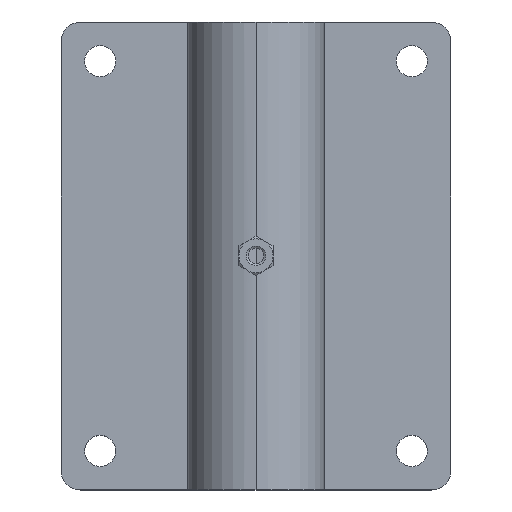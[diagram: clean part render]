
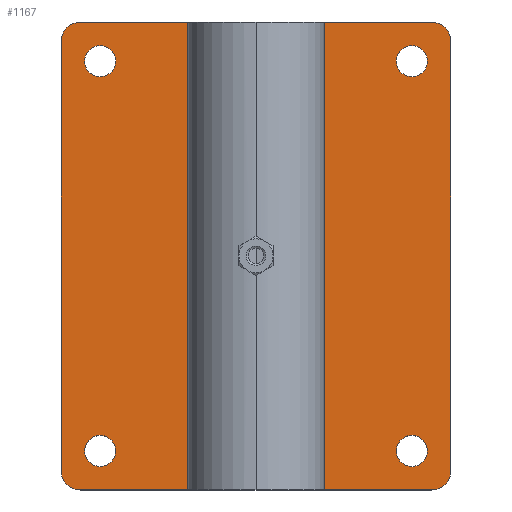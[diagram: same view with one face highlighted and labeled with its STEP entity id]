
A CAD part, top view. The second image highlights one B-rep face of the part: STEP entity #1167.
In plain terms, the highlighted planar face has unit normal (0, 0, 1).
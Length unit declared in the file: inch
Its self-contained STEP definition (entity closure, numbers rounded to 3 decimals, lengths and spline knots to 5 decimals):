
#17 = ORIENTED_EDGE ( 'NONE', *, *, #1988, .T. ) ;
#40 = EDGE_LOOP ( 'NONE', ( #1994, #334 ) ) ;
#47 = VERTEX_POINT ( 'NONE', #409 ) ;
#52 = VERTEX_POINT ( 'NONE', #1160 ) ;
#59 = AXIS2_PLACEMENT_3D ( 'NONE', #237, #1287, #711 ) ;
#92 = VECTOR ( 'NONE', #1031, 39.37008 ) ;
#105 = DIRECTION ( 'NONE',  ( -1., 0., 0. ) ) ;
#139 = EDGE_CURVE ( 'NONE', #550, #1576, #1973, .T. ) ;
#147 = DIRECTION ( 'NONE',  ( 0., 0., 1. ) ) ;
#160 = VERTEX_POINT ( 'NONE', #1886 ) ;
#170 = DIRECTION ( 'NONE',  ( -1., 0., 0. ) ) ;
#176 = ORIENTED_EDGE ( 'NONE', *, *, #1306, .T. ) ;
#219 = ORIENTED_EDGE ( 'NONE', *, *, #1342, .F. ) ;
#231 = EDGE_CURVE ( 'NONE', #742, #1393, #286, .T. ) ;
#237 = CARTESIAN_POINT ( 'NONE',  ( -2., -2.5, 0.1875 ) ) ;
#238 = DIRECTION ( 'NONE',  ( 0., 0., 1. ) ) ;
#253 = ORIENTED_EDGE ( 'NONE', *, *, #1466, .T. ) ;
#254 = DIRECTION ( 'NONE',  ( 0., 0., 1. ) ) ;
#264 = DIRECTION ( 'NONE',  ( 0., 0., 1. ) ) ;
#286 = CIRCLE ( 'NONE', #59, 0.2 ) ;
#287 = AXIS2_PLACEMENT_3D ( 'NONE', #1793, #264, #1179 ) ;
#293 = VERTEX_POINT ( 'NONE', #633 ) ;
#295 = CARTESIAN_POINT ( 'NONE',  ( 1.8, -2.5, 0.1875 ) ) ;
#312 = EDGE_CURVE ( 'NONE', #476, #415, #1477, .T. ) ;
#323 = AXIS2_PLACEMENT_3D ( 'NONE', #770, #1738, #1851 ) ;
#334 = ORIENTED_EDGE ( 'NONE', *, *, #231, .F. ) ;
#338 = EDGE_CURVE ( 'NONE', #415, #476, #830, .T. ) ;
#371 = DIRECTION ( 'NONE',  ( 0., 0., 1. ) ) ;
#382 = AXIS2_PLACEMENT_3D ( 'NONE', #1356, #565, #1041 ) ;
#383 = CARTESIAN_POINT ( 'NONE',  ( -2.5, -2.75, 0.1875 ) ) ;
#388 = CIRCLE ( 'NONE', #1553, 0.2 ) ;
#389 = AXIS2_PLACEMENT_3D ( 'NONE', #1741, #1752, #105 ) ;
#397 = CARTESIAN_POINT ( 'NONE',  ( -2.25, -3., 0.1875 ) ) ;
#405 = CARTESIAN_POINT ( 'NONE',  ( 2., -2.5, 0.1875 ) ) ;
#409 = CARTESIAN_POINT ( 'NONE',  ( 1.8, 2.5, 0.1875 ) ) ;
#412 = VERTEX_POINT ( 'NONE', #1241 ) ;
#415 = VERTEX_POINT ( 'NONE', #1094 ) ;
#444 = DIRECTION ( 'NONE',  ( 0., 0., 1. ) ) ;
#448 = FACE_OUTER_BOUND ( 'NONE', #893, .T. ) ;
#454 = VECTOR ( 'NONE', #1533, 39.37008 ) ;
#467 = CARTESIAN_POINT ( 'NONE',  ( 2.5, -2.75, 0.1875 ) ) ;
#475 = DIRECTION ( 'NONE',  ( 1., 0., 0. ) ) ;
#476 = VERTEX_POINT ( 'NONE', #1630 ) ;
#487 = CARTESIAN_POINT ( 'NONE',  ( 2.2, -2.5, 0.1875 ) ) ;
#501 = CIRCLE ( 'NONE', #588, 0.2 ) ;
#535 = CARTESIAN_POINT ( 'NONE',  ( 2.25, -3., 0.1875 ) ) ;
#546 = AXIS2_PLACEMENT_3D ( 'NONE', #1278, #1740, #2035 ) ;
#550 = VERTEX_POINT ( 'NONE', #2007 ) ;
#565 = DIRECTION ( 'NONE',  ( 0., 0., 1. ) ) ;
#582 = DIRECTION ( 'NONE',  ( 0., 0., 1. ) ) ;
#588 = AXIS2_PLACEMENT_3D ( 'NONE', #405, #371, #1950 ) ;
#593 = EDGE_CURVE ( 'NONE', #1231, #293, #1672, .T. ) ;
#600 = ORIENTED_EDGE ( 'NONE', *, *, #139, .T. ) ;
#603 = CARTESIAN_POINT ( 'NONE',  ( -2.25, 3., 0.1875 ) ) ;
#633 = CARTESIAN_POINT ( 'NONE',  ( -2.5, 2.75, 0.1875 ) ) ;
#645 = EDGE_CURVE ( 'NONE', #1393, #742, #1077, .T. ) ;
#660 = EDGE_CURVE ( 'NONE', #293, #1044, #1407, .T. ) ;
#700 = CARTESIAN_POINT ( 'NONE',  ( 2., 2.5, 0.1875 ) ) ;
#711 = DIRECTION ( 'NONE',  ( 1., 0., 0. ) ) ;
#713 = DIRECTION ( 'NONE',  ( -1., 0., 0. ) ) ;
#742 = VERTEX_POINT ( 'NONE', #1755 ) ;
#751 = FACE_BOUND ( 'NONE', #1425, .T. ) ;
#769 = DIRECTION ( 'NONE',  ( 0., 1., 0. ) ) ;
#770 = CARTESIAN_POINT ( 'NONE',  ( -2., -2.5, 0.1875 ) ) ;
#776 = PLANE ( 'NONE',  #1117 ) ;
#830 = CIRCLE ( 'NONE', #1744, 0.2 ) ;
#870 = LINE ( 'NONE', #1347, #454 ) ;
#893 = EDGE_LOOP ( 'NONE', ( #1550, #176, #600, #2036, #1297, #1597, #17, #253 ) ) ;
#922 = CIRCLE ( 'NONE', #287, 0.25 ) ;
#924 = CIRCLE ( 'NONE', #1417, 0.2 ) ;
#932 = EDGE_CURVE ( 'NONE', #1576, #1231, #870, .T. ) ;
#935 = CARTESIAN_POINT ( 'NONE',  ( 2.25, 3., 0.1875 ) ) ;
#957 = DIRECTION ( 'NONE',  ( 0., -1., 0. ) ) ;
#1014 = EDGE_LOOP ( 'NONE', ( #1039, #1304 ) ) ;
#1031 = DIRECTION ( 'NONE',  ( 1., 0., 0. ) ) ;
#1039 = ORIENTED_EDGE ( 'NONE', *, *, #1814, .F. ) ;
#1041 = DIRECTION ( 'NONE',  ( -1., 0., 0. ) ) ;
#1043 = EDGE_CURVE ( 'NONE', #1484, #160, #922, .T. ) ;
#1044 = VERTEX_POINT ( 'NONE', #383 ) ;
#1057 = CARTESIAN_POINT ( 'NONE',  ( -2.5, -2.75, 0.1875 ) ) ;
#1077 = CIRCLE ( 'NONE', #323, 0.2 ) ;
#1084 = CIRCLE ( 'NONE', #389, 0.25 ) ;
#1094 = CARTESIAN_POINT ( 'NONE',  ( -2.2, 2.5, 0.1875 ) ) ;
#1098 = CARTESIAN_POINT ( 'NONE',  ( 2.25, -2.75, 0.1875 ) ) ;
#1117 = AXIS2_PLACEMENT_3D ( 'NONE', #1098, #147, #1733 ) ;
#1130 = ORIENTED_EDGE ( 'NONE', *, *, #1912, .F. ) ;
#1146 = EDGE_CURVE ( 'NONE', #412, #47, #924, .T. ) ;
#1160 = CARTESIAN_POINT ( 'NONE',  ( -2.25, -3., 0.1875 ) ) ;
#1167 = ADVANCED_FACE ( 'NONE', ( #1262, #1549, #448, #1725, #751 ), #776, .T. ) ;
#1175 = VECTOR ( 'NONE', #957, 39.37008 ) ;
#1179 = DIRECTION ( 'NONE',  ( 1., 0., 0. ) ) ;
#1184 = LINE ( 'NONE', #397, #92 ) ;
#1192 = ORIENTED_EDGE ( 'NONE', *, *, #338, .F. ) ;
#1218 = DIRECTION ( 'NONE',  ( -1., 0., 0. ) ) ;
#1231 = VERTEX_POINT ( 'NONE', #603 ) ;
#1241 = CARTESIAN_POINT ( 'NONE',  ( 2.2, 2.5, 0.1875 ) ) ;
#1243 = VERTEX_POINT ( 'NONE', #295 ) ;
#1262 = FACE_BOUND ( 'NONE', #40, .T. ) ;
#1278 = CARTESIAN_POINT ( 'NONE',  ( -2., 2.5, 0.1875 ) ) ;
#1287 = DIRECTION ( 'NONE',  ( 0., 0., 1. ) ) ;
#1297 = ORIENTED_EDGE ( 'NONE', *, *, #593, .T. ) ;
#1304 = ORIENTED_EDGE ( 'NONE', *, *, #1146, .F. ) ;
#1306 = EDGE_CURVE ( 'NONE', #160, #550, #1563, .T. ) ;
#1312 = ORIENTED_EDGE ( 'NONE', *, *, #312, .F. ) ;
#1342 = EDGE_CURVE ( 'NONE', #1764, #1243, #1580, .T. ) ;
#1347 = CARTESIAN_POINT ( 'NONE',  ( -2.25, 3., 0.1875 ) ) ;
#1356 = CARTESIAN_POINT ( 'NONE',  ( 2.25, 2.75, 0.1875 ) ) ;
#1393 = VERTEX_POINT ( 'NONE', #1816 ) ;
#1407 = LINE ( 'NONE', #1057, #1175 ) ;
#1417 = AXIS2_PLACEMENT_3D ( 'NONE', #1570, #1863, #475 ) ;
#1425 = EDGE_LOOP ( 'NONE', ( #1192, #1312 ) ) ;
#1430 = CARTESIAN_POINT ( 'NONE',  ( -2.25, 2.75, 0.1875 ) ) ;
#1449 = AXIS2_PLACEMENT_3D ( 'NONE', #1497, #238, #713 ) ;
#1466 = EDGE_CURVE ( 'NONE', #52, #1484, #1184, .T. ) ;
#1477 = CIRCLE ( 'NONE', #546, 0.2 ) ;
#1484 = VERTEX_POINT ( 'NONE', #535 ) ;
#1486 = DIRECTION ( 'NONE',  ( 1., 0., 0. ) ) ;
#1497 = CARTESIAN_POINT ( 'NONE',  ( 2., -2.5, 0.1875 ) ) ;
#1515 = EDGE_LOOP ( 'NONE', ( #1130, #219 ) ) ;
#1533 = DIRECTION ( 'NONE',  ( -1., 0., 0. ) ) ;
#1549 = FACE_BOUND ( 'NONE', #1014, .T. ) ;
#1550 = ORIENTED_EDGE ( 'NONE', *, *, #1043, .T. ) ;
#1553 = AXIS2_PLACEMENT_3D ( 'NONE', #700, #254, #1486 ) ;
#1563 = LINE ( 'NONE', #467, #1642 ) ;
#1570 = CARTESIAN_POINT ( 'NONE',  ( 2., 2.5, 0.1875 ) ) ;
#1576 = VERTEX_POINT ( 'NONE', #935 ) ;
#1580 = CIRCLE ( 'NONE', #1449, 0.2 ) ;
#1597 = ORIENTED_EDGE ( 'NONE', *, *, #660, .T. ) ;
#1630 = CARTESIAN_POINT ( 'NONE',  ( -1.8, 2.5, 0.1875 ) ) ;
#1642 = VECTOR ( 'NONE', #769, 39.37008 ) ;
#1672 = CIRCLE ( 'NONE', #1840, 0.25 ) ;
#1725 = FACE_BOUND ( 'NONE', #1515, .T. ) ;
#1733 = DIRECTION ( 'NONE',  ( 1., 0., 0. ) ) ;
#1738 = DIRECTION ( 'NONE',  ( 0., 0., 1. ) ) ;
#1740 = DIRECTION ( 'NONE',  ( 0., 0., 1. ) ) ;
#1741 = CARTESIAN_POINT ( 'NONE',  ( -2.25, -2.75, 0.1875 ) ) ;
#1744 = AXIS2_PLACEMENT_3D ( 'NONE', #1896, #444, #170 ) ;
#1752 = DIRECTION ( 'NONE',  ( 0., 0., 1. ) ) ;
#1755 = CARTESIAN_POINT ( 'NONE',  ( -1.8, -2.5, 0.1875 ) ) ;
#1764 = VERTEX_POINT ( 'NONE', #487 ) ;
#1793 = CARTESIAN_POINT ( 'NONE',  ( 2.25, -2.75, 0.1875 ) ) ;
#1814 = EDGE_CURVE ( 'NONE', #47, #412, #388, .T. ) ;
#1816 = CARTESIAN_POINT ( 'NONE',  ( -2.2, -2.5, 0.1875 ) ) ;
#1840 = AXIS2_PLACEMENT_3D ( 'NONE', #1430, #582, #1218 ) ;
#1851 = DIRECTION ( 'NONE',  ( 1., 0., 0. ) ) ;
#1863 = DIRECTION ( 'NONE',  ( 0., 0., 1. ) ) ;
#1886 = CARTESIAN_POINT ( 'NONE',  ( 2.5, -2.75, 0.1875 ) ) ;
#1896 = CARTESIAN_POINT ( 'NONE',  ( -2., 2.5, 0.1875 ) ) ;
#1912 = EDGE_CURVE ( 'NONE', #1243, #1764, #501, .T. ) ;
#1950 = DIRECTION ( 'NONE',  ( -1., 0., 0. ) ) ;
#1973 = CIRCLE ( 'NONE', #382, 0.25 ) ;
#1988 = EDGE_CURVE ( 'NONE', #1044, #52, #1084, .T. ) ;
#1994 = ORIENTED_EDGE ( 'NONE', *, *, #645, .F. ) ;
#2007 = CARTESIAN_POINT ( 'NONE',  ( 2.5, 2.75, 0.1875 ) ) ;
#2035 = DIRECTION ( 'NONE',  ( -1., 0., 0. ) ) ;
#2036 = ORIENTED_EDGE ( 'NONE', *, *, #932, .T. ) ;
